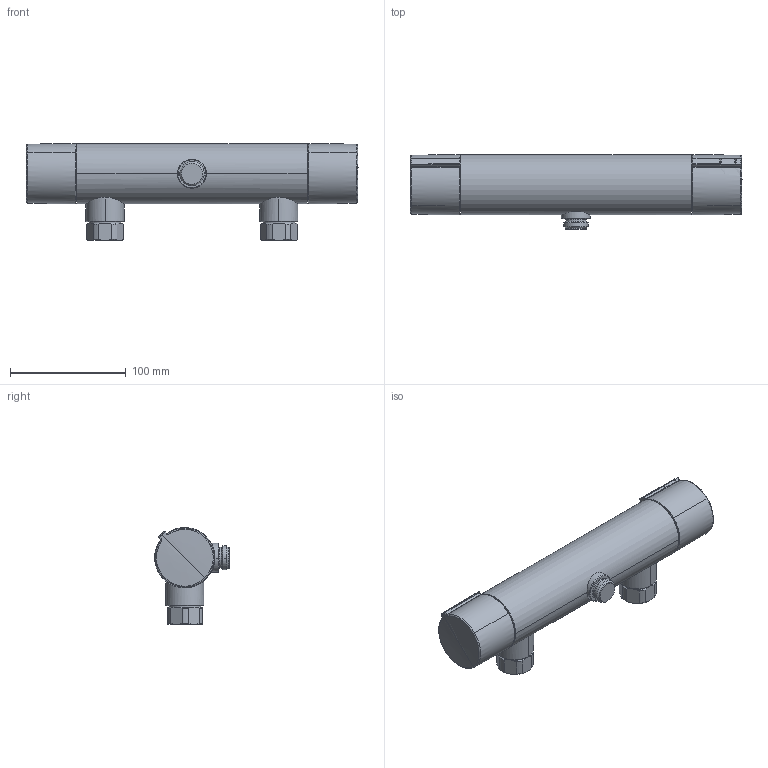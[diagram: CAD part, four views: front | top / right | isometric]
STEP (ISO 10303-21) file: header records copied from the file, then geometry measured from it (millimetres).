
FILE_DESCRIPTION (( 'STEP AP203' ), '1' );
FILE_NAME ('2870+2470.STEP', '2018-07-10T09:33:43', ( '' ), ( '' ), 'SwSTEP 2.0', 'SolidWorks 2016', '' );
FILE_SCHEMA (( 'CONFIG_CONTROL_DESIGN' ));
Length unit declared in the file: millimetre
Products named in the file (1): 2870+2470
Bounding box: 286.72 x 64.5 x 83.6 mm (x, y, z)
Volume: 652099.9 mm3; surface area: 67061.4 mm2
Topology: 1 solids, 1 shells, 266 faces, 615 edges, 365 vertices
Faces by surface type: bspline 71, cylinder 67, plane 55, cone 41, torus 24, sphere 8
Entity records: 10072 total; most frequent: CARTESIAN_POINT 4583, ORIENTED_EDGE 1210, DIRECTION 1023, EDGE_CURVE 605, AXIS2_PLACEMENT_3D 438, VERTEX_POINT 365, EDGE_LOOP 290, FACE_OUTER_BOUND 266
